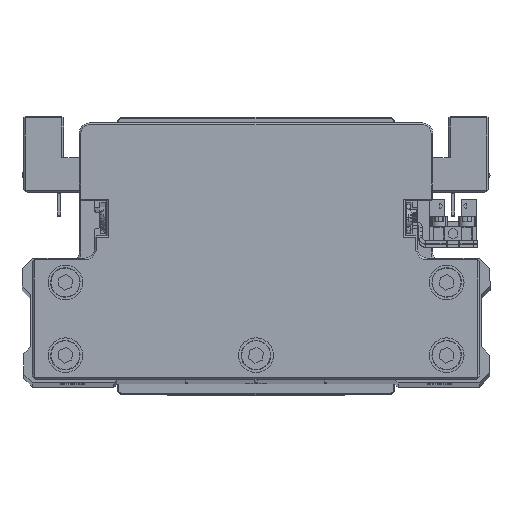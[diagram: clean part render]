
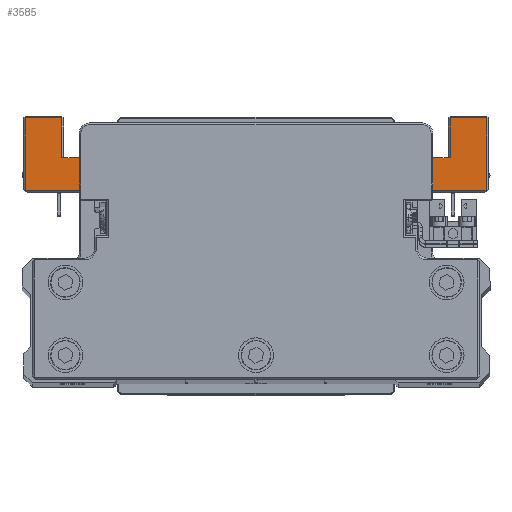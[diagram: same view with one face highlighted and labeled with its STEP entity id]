
A CAD part, top view. The second image highlights one B-rep face of the part: STEP entity #3585.
In plain terms, the highlighted planar face has unit normal (0, 0, 1) as drawn and (0, -1, 0) by its records, which use the part's own axes.
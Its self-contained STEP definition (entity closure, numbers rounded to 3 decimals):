
#50 = DIRECTION ( 'NONE',  ( 0., 0., -1. ) ) ;
#500 = VERTEX_POINT ( 'NONE', #36458 ) ;
#537 = VECTOR ( 'NONE', #22519, 1000. ) ;
#616 = CARTESIAN_POINT ( 'NONE',  ( 66.5, -45., -43.5 ) ) ;
#842 = DIRECTION ( 'NONE',  ( -1., 0., 0. ) ) ;
#977 = VERTEX_POINT ( 'NONE', #11989 ) ;
#2207 = DIRECTION ( 'NONE',  ( 0., 0., -1. ) ) ;
#2383 = EDGE_CURVE ( 'NONE', #39606, #12357, #32261, .T. ) ;
#2585 = EDGE_LOOP ( 'NONE', ( #18026, #26068, #17536, #9350, #18932, #9076, #32951, #39419, #28069, #33800, #37798, #37801, #37670, #6482, #29886, #12081, #28530, #28812 ) ) ;
#3158 = VERTEX_POINT ( 'NONE', #19295 ) ;
#3356 = EDGE_CURVE ( 'NONE', #10414, #39307, #33164, .T. ) ;
#3378 = EDGE_CURVE ( 'NONE', #3158, #30946, #21085, .T. ) ;
#3585 = ADVANCED_FACE ( 'NONE', ( #10674 ), #23011, .T. ) ;
#3739 = VECTOR ( 'NONE', #23142, 1000. ) ;
#3858 = VERTEX_POINT ( 'NONE', #18739 ) ;
#3911 = CARTESIAN_POINT ( 'NONE',  ( 46., -45., -54. ) ) ;
#4062 = VERTEX_POINT ( 'NONE', #23337 ) ;
#4593 = CARTESIAN_POINT ( 'NONE',  ( -46., -45., -52.5 ) ) ;
#4654 = CARTESIAN_POINT ( 'NONE',  ( -46., -45., -54. ) ) ;
#5154 = CARTESIAN_POINT ( 'NONE',  ( 40.066, -45., -43. ) ) ;
#5498 = CARTESIAN_POINT ( 'NONE',  ( 40.066, -45., -43. ) ) ;
#5709 = DIRECTION ( 'NONE',  ( -1., 0., 0. ) ) ;
#5715 = EDGE_CURVE ( 'NONE', #30946, #19432, #34420, .T. ) ;
#5781 = CARTESIAN_POINT ( 'NONE',  ( 39.868, -45., -42.987 ) ) ;
#5854 = LINE ( 'NONE', #18189, #33884 ) ;
#6193 = DIRECTION ( 'NONE',  ( 0., 1., 0. ) ) ;
#6266 = VERTEX_POINT ( 'NONE', #34490 ) ;
#6482 = ORIENTED_EDGE ( 'NONE', *, *, #8626, .T. ) ;
#6767 = CARTESIAN_POINT ( 'NONE',  ( -39.868, -45., -42.987 ) ) ;
#6892 = CARTESIAN_POINT ( 'NONE',  ( 46., -45., -52.5 ) ) ;
#7062 = CARTESIAN_POINT ( 'NONE',  ( -55.5, -45., -64. ) ) ;
#7114 = DIRECTION ( 'NONE',  ( 0., 0., -1. ) ) ;
#7655 = DIRECTION ( 'NONE',  ( 0., -1., 0. ) ) ;
#7880 = LINE ( 'NONE', #20232, #17119 ) ;
#8253 = EDGE_CURVE ( 'NONE', #4062, #37674, #38479, .T. ) ;
#8621 = VECTOR ( 'NONE', #19388, 1000. ) ;
#8626 = EDGE_CURVE ( 'NONE', #24857, #6266, #37846, .T. ) ;
#9076 = ORIENTED_EDGE ( 'NONE', *, *, #32574, .T. ) ;
#9140 = VECTOR ( 'NONE', #21868, 1000. ) ;
#9350 = ORIENTED_EDGE ( 'NONE', *, *, #34081, .T. ) ;
#9525 = CARTESIAN_POINT ( 'NONE',  ( -56., -45., -52.5 ) ) ;
#10184 = CARTESIAN_POINT ( 'NONE',  ( 67., -45., -64. ) ) ;
#10414 = VERTEX_POINT ( 'NONE', #29253 ) ;
#10674 = FACE_OUTER_BOUND ( 'NONE', #2585, .T. ) ;
#10824 = CARTESIAN_POINT ( 'NONE',  ( 55.5, -45., -52.5 ) ) ;
#11442 = EDGE_CURVE ( 'NONE', #12352, #3158, #39380, .T. ) ;
#11720 = CARTESIAN_POINT ( 'NONE',  ( 25.802, -45., -41.111 ) ) ;
#11989 = CARTESIAN_POINT ( 'NONE',  ( -66.5, -45., -64. ) ) ;
#12081 = ORIENTED_EDGE ( 'NONE', *, *, #3356, .T. ) ;
#12352 = VERTEX_POINT ( 'NONE', #5781 ) ;
#12357 = VERTEX_POINT ( 'NONE', #18119 ) ;
#12939 = DIRECTION ( 'NONE',  ( 0., 0., 1. ) ) ;
#13378 = VERTEX_POINT ( 'NONE', #22781 ) ;
#13645 = AXIS2_PLACEMENT_3D ( 'NONE', #35309, #7655, #19986 ) ;
#13872 = CIRCLE ( 'NONE', #36428, 1.5 ) ;
#15441 = CARTESIAN_POINT ( 'NONE',  ( 40.066, -45., -41.5 ) ) ;
#15708 = CIRCLE ( 'NONE', #38241, 1.5 ) ;
#15789 = EDGE_CURVE ( 'NONE', #6266, #10414, #28298, .T. ) ;
#16228 = LINE ( 'NONE', #28514, #20347 ) ;
#16259 = DIRECTION ( 'NONE',  ( 1., 0., 0. ) ) ;
#16944 = DIRECTION ( 'NONE',  ( 0., 0., 1. ) ) ;
#17060 = EDGE_CURVE ( 'NONE', #38377, #39017, #37183, .T. ) ;
#17119 = VECTOR ( 'NONE', #32509, 1000. ) ;
#17232 = VECTOR ( 'NONE', #12939, 1000. ) ;
#17536 = ORIENTED_EDGE ( 'NONE', *, *, #38518, .T. ) ;
#17587 = LINE ( 'NONE', #29883, #20773 ) ;
#17851 = DIRECTION ( 'NONE',  ( -1., 0., 0. ) ) ;
#18026 = ORIENTED_EDGE ( 'NONE', *, *, #3378, .T. ) ;
#18119 = CARTESIAN_POINT ( 'NONE',  ( -46., -45., -52.5 ) ) ;
#18189 = CARTESIAN_POINT ( 'NONE',  ( 46., -45., -52.5 ) ) ;
#18473 = CARTESIAN_POINT ( 'NONE',  ( 56., -45., -64. ) ) ;
#18533 = DIRECTION ( 'NONE',  ( 0., 0., -1. ) ) ;
#18584 = EDGE_CURVE ( 'NONE', #4062, #24857, #17587, .T. ) ;
#18739 = CARTESIAN_POINT ( 'NONE',  ( -40.066, -45., -43. ) ) ;
#18932 = ORIENTED_EDGE ( 'NONE', *, *, #36048, .T. ) ;
#19106 = DIRECTION ( 'NONE',  ( -0.991, 0., -0.132 ) ) ;
#19295 = CARTESIAN_POINT ( 'NONE',  ( 36.217, -45., -42.5 ) ) ;
#19388 = DIRECTION ( 'NONE',  ( 1., 0., 0. ) ) ;
#19432 = VERTEX_POINT ( 'NONE', #20717 ) ;
#19509 = VECTOR ( 'NONE', #19106, 1000. ) ;
#19732 = VECTOR ( 'NONE', #7114, 1000. ) ;
#19986 = DIRECTION ( 'NONE',  ( 0., 0., -1. ) ) ;
#20232 = CARTESIAN_POINT ( 'NONE',  ( -55.5, -45., -52.5 ) ) ;
#20347 = VECTOR ( 'NONE', #842, 1000. ) ;
#20717 = CARTESIAN_POINT ( 'NONE',  ( -39.868, -45., -42.987 ) ) ;
#20773 = VECTOR ( 'NONE', #2207, 1000. ) ;
#21085 = LINE ( 'NONE', #33386, #38757 ) ;
#21868 = DIRECTION ( 'NONE',  ( 0., 0., 1. ) ) ;
#22250 = VECTOR ( 'NONE', #24058, 1000. ) ;
#22493 = LINE ( 'NONE', #34773, #19732 ) ;
#22519 = DIRECTION ( 'NONE',  ( 1., 0., 0. ) ) ;
#22781 = CARTESIAN_POINT ( 'NONE',  ( -66.5, -45., -43. ) ) ;
#23011 = PLANE ( 'NONE',  #13645 ) ;
#23142 = DIRECTION ( 'NONE',  ( -1., 0., 0. ) ) ;
#23337 = CARTESIAN_POINT ( 'NONE',  ( 56., -45., -52.5 ) ) ;
#24058 = DIRECTION ( 'NONE',  ( -0.991, 0., 0.132 ) ) ;
#24813 = VECTOR ( 'NONE', #16259, 1000. ) ;
#24857 = VERTEX_POINT ( 'NONE', #18473 ) ;
#25853 = CARTESIAN_POINT ( 'NONE',  ( -56., -45., -52.5 ) ) ;
#26068 = ORIENTED_EDGE ( 'NONE', *, *, #5715, .T. ) ;
#26791 = EDGE_CURVE ( 'NONE', #39606, #500, #31583, .T. ) ;
#27360 = EDGE_CURVE ( 'NONE', #12357, #39017, #7880, .T. ) ;
#27536 = EDGE_CURVE ( 'NONE', #37674, #500, #5854, .T. ) ;
#27730 = DIRECTION ( 'NONE',  ( 0., 1., 0. ) ) ;
#28069 = ORIENTED_EDGE ( 'NONE', *, *, #2383, .F. ) ;
#28298 = LINE ( 'NONE', #616, #17232 ) ;
#28458 = VECTOR ( 'NONE', #17851, 1000. ) ;
#28514 = CARTESIAN_POINT ( 'NONE',  ( -66., -45., -43. ) ) ;
#28530 = ORIENTED_EDGE ( 'NONE', *, *, #33969, .T. ) ;
#28812 = ORIENTED_EDGE ( 'NONE', *, *, #11442, .T. ) ;
#29253 = CARTESIAN_POINT ( 'NONE',  ( 66.5, -45., -43. ) ) ;
#29496 = CARTESIAN_POINT ( 'NONE',  ( -36.217, -45., -42.5 ) ) ;
#29683 = VECTOR ( 'NONE', #16944, 1000. ) ;
#29883 = CARTESIAN_POINT ( 'NONE',  ( 56., -45., -64.5 ) ) ;
#29886 = ORIENTED_EDGE ( 'NONE', *, *, #15789, .T. ) ;
#30485 = DIRECTION ( 'NONE',  ( 0., 0., -1. ) ) ;
#30946 = VERTEX_POINT ( 'NONE', #29496 ) ;
#31583 = LINE ( 'NONE', #3911, #24813 ) ;
#32261 = LINE ( 'NONE', #4593, #29683 ) ;
#32509 = DIRECTION ( 'NONE',  ( -1., 0., 0. ) ) ;
#32574 = EDGE_CURVE ( 'NONE', #977, #38377, #34725, .T. ) ;
#32951 = ORIENTED_EDGE ( 'NONE', *, *, #17060, .T. ) ;
#33164 = LINE ( 'NONE', #5498, #28458 ) ;
#33250 = CARTESIAN_POINT ( 'NONE',  ( -56., -45., -64. ) ) ;
#33386 = CARTESIAN_POINT ( 'NONE',  ( -77.786, -45., -42.5 ) ) ;
#33800 = ORIENTED_EDGE ( 'NONE', *, *, #26791, .T. ) ;
#33846 = CARTESIAN_POINT ( 'NONE',  ( -40.066, -45., -41.5 ) ) ;
#33884 = VECTOR ( 'NONE', #30485, 1000. ) ;
#33969 = EDGE_CURVE ( 'NONE', #39307, #12352, #13872, .T. ) ;
#34081 = EDGE_CURVE ( 'NONE', #3858, #13378, #16228, .T. ) ;
#34420 = LINE ( 'NONE', #6767, #19509 ) ;
#34490 = CARTESIAN_POINT ( 'NONE',  ( 66.5, -45., -64. ) ) ;
#34725 = LINE ( 'NONE', #7062, #8621 ) ;
#34773 = CARTESIAN_POINT ( 'NONE',  ( -66.5, -45., -64.5 ) ) ;
#35309 = CARTESIAN_POINT ( 'NONE',  ( 0., -45., 0. ) ) ;
#36048 = EDGE_CURVE ( 'NONE', #13378, #977, #22493, .T. ) ;
#36428 = AXIS2_PLACEMENT_3D ( 'NONE', #15441, #27730, #50 ) ;
#36458 = CARTESIAN_POINT ( 'NONE',  ( 46., -45., -54. ) ) ;
#37183 = LINE ( 'NONE', #9525, #9140 ) ;
#37670 = ORIENTED_EDGE ( 'NONE', *, *, #18584, .T. ) ;
#37674 = VERTEX_POINT ( 'NONE', #6892 ) ;
#37798 = ORIENTED_EDGE ( 'NONE', *, *, #27536, .F. ) ;
#37801 = ORIENTED_EDGE ( 'NONE', *, *, #8253, .F. ) ;
#37846 = LINE ( 'NONE', #10184, #537 ) ;
#38241 = AXIS2_PLACEMENT_3D ( 'NONE', #33846, #6193, #18533 ) ;
#38377 = VERTEX_POINT ( 'NONE', #33250 ) ;
#38479 = LINE ( 'NONE', #10824, #3739 ) ;
#38518 = EDGE_CURVE ( 'NONE', #19432, #3858, #15708, .T. ) ;
#38757 = VECTOR ( 'NONE', #5709, 1000. ) ;
#39017 = VERTEX_POINT ( 'NONE', #25853 ) ;
#39307 = VERTEX_POINT ( 'NONE', #5154 ) ;
#39380 = LINE ( 'NONE', #11720, #22250 ) ;
#39419 = ORIENTED_EDGE ( 'NONE', *, *, #27360, .F. ) ;
#39606 = VERTEX_POINT ( 'NONE', #4654 ) ;
